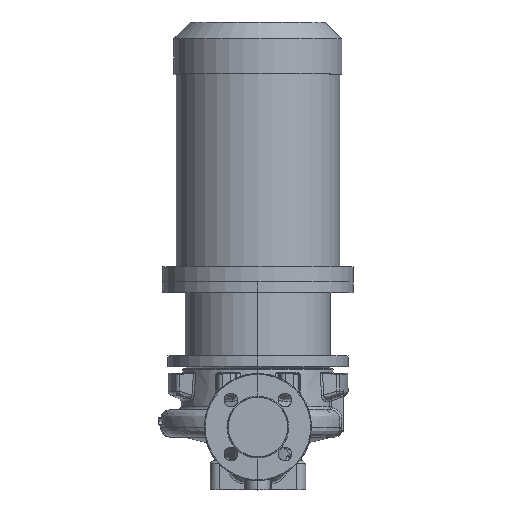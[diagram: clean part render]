
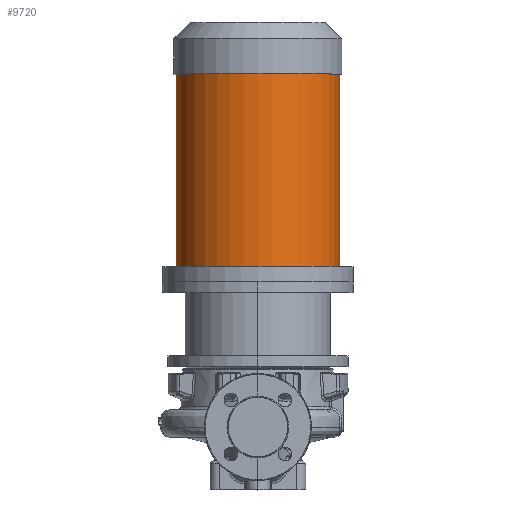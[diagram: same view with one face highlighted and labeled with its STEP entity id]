
A CAD part, top view. The second image highlights one B-rep face of the part: STEP entity #9720.
In plain terms, the highlighted cylindrical face has radius 107 mm (diameter 214 mm), a partial arc.
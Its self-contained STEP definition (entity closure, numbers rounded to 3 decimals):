
#8626 = CARTESIAN_POINT ( 'NONE',  ( 0., 462.3, 0. ) ) ;
#9190 = EDGE_CURVE ( 'NONE', #71260, #47345, #73849, .T. ) ;
#9720 = ADVANCED_FACE ( 'NONE', ( #17817 ), #23310, .T. ) ;
#17817 = FACE_OUTER_BOUND ( 'NONE', #73544, .T. ) ;
#17823 = CARTESIAN_POINT ( 'NONE',  ( -107., 190.3, 0. ) ) ;
#23310 = CYLINDRICAL_SURFACE ( 'NONE', #41907, 107. ) ;
#23345 = DIRECTION ( 'NONE',  ( -1., 0., 0. ) ) ;
#24571 = EDGE_CURVE ( 'NONE', #47345, #43779, #45510, .T. ) ;
#26618 = EDGE_CURVE ( 'NONE', #71260, #42844, #50156, .T. ) ;
#29777 = DIRECTION ( 'NONE',  ( 0., -1., 0. ) ) ;
#38682 = DIRECTION ( 'NONE',  ( -1., 0., 0. ) ) ;
#39082 = DIRECTION ( 'NONE',  ( -1., 0., 0. ) ) ;
#39854 = DIRECTION ( 'NONE',  ( 0., -1., 0. ) ) ;
#41551 = ORIENTED_EDGE ( 'NONE', *, *, #61028, .T. ) ;
#41907 = AXIS2_PLACEMENT_3D ( 'NONE', #57022, #39854, #39082 ) ;
#41992 = ORIENTED_EDGE ( 'NONE', *, *, #24571, .F. ) ;
#42679 = VECTOR ( 'NONE', #60077, 1000. ) ;
#42844 = VERTEX_POINT ( 'NONE', #45993 ) ;
#43779 = VERTEX_POINT ( 'NONE', #75916 ) ;
#44574 = DIRECTION ( 'NONE',  ( 0., -1., 0. ) ) ;
#44591 = ORIENTED_EDGE ( 'NONE', *, *, #9190, .F. ) ;
#45510 = CIRCLE ( 'NONE', #57215, 107. ) ;
#45993 = CARTESIAN_POINT ( 'NONE',  ( -107., 462.3, 0. ) ) ;
#47345 = VERTEX_POINT ( 'NONE', #59013 ) ;
#49060 = ORIENTED_EDGE ( 'NONE', *, *, #26618, .T. ) ;
#50156 = CIRCLE ( 'NONE', #52399, 107. ) ;
#51522 = CARTESIAN_POINT ( 'NONE',  ( 107., 462.3, 0. ) ) ;
#52399 = AXIS2_PLACEMENT_3D ( 'NONE', #8626, #44574, #38682 ) ;
#57022 = CARTESIAN_POINT ( 'NONE',  ( 0., 190.3, 0. ) ) ;
#57215 = AXIS2_PLACEMENT_3D ( 'NONE', #70579, #29777, #23345 ) ;
#59013 = CARTESIAN_POINT ( 'NONE',  ( 107., 210.3, 0. ) ) ;
#60077 = DIRECTION ( 'NONE',  ( 0., -1., 0. ) ) ;
#60970 = CARTESIAN_POINT ( 'NONE',  ( 107., 190.3, 0. ) ) ;
#61028 = EDGE_CURVE ( 'NONE', #42844, #43779, #70216, .T. ) ;
#62867 = VECTOR ( 'NONE', #73257, 1000. ) ;
#70216 = LINE ( 'NONE', #17823, #42679 ) ;
#70579 = CARTESIAN_POINT ( 'NONE',  ( 0., 210.3, 0. ) ) ;
#71260 = VERTEX_POINT ( 'NONE', #51522 ) ;
#73257 = DIRECTION ( 'NONE',  ( 0., -1., 0. ) ) ;
#73544 = EDGE_LOOP ( 'NONE', ( #44591, #49060, #41551, #41992 ) ) ;
#73849 = LINE ( 'NONE', #60970, #62867 ) ;
#75916 = CARTESIAN_POINT ( 'NONE',  ( -107., 210.3, 0. ) ) ;
